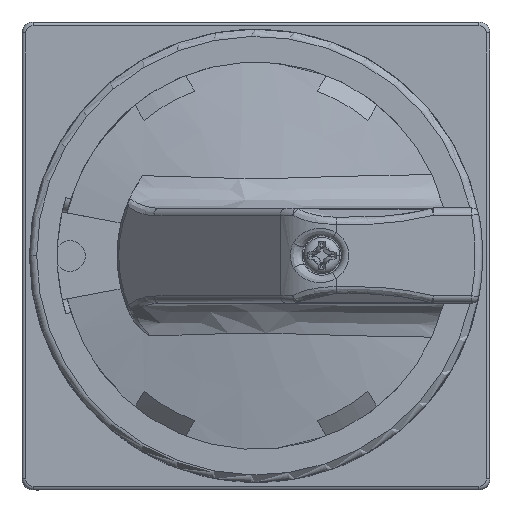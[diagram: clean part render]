
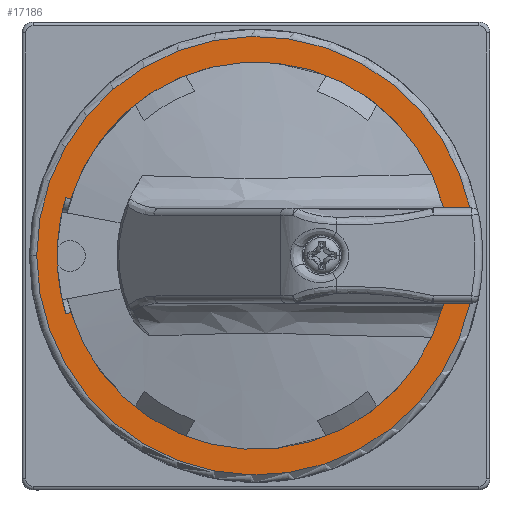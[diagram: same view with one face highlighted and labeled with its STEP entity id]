
A CAD part, top view. The second image highlights one B-rep face of the part: STEP entity #17186.
In plain terms, the highlighted planar face has unit normal (0, 0, 1).
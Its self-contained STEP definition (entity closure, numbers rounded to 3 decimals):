
#1046 = ORIENTED_EDGE ( 'NONE', *, *, #123866, .F. ) ;
#2362 = CARTESIAN_POINT ( 'NONE',  ( -23.639, -5.111, -10.982 ) ) ;
#10178 = ORIENTED_EDGE ( 'NONE', *, *, #300472, .T. ) ;
#16325 = CARTESIAN_POINT ( 'NONE',  ( 32.052, 1.389, -10.982 ) ) ;
#16781 = CARTESIAN_POINT ( 'NONE',  ( -19.114, 2.728, -10.982 ) ) ;
#17186 = ADVANCED_FACE ( 'NONE', ( #33577 ), #148788, .T. ) ;
#17763 = DIRECTION ( 'NONE',  ( 1., 0., 0. ) ) ;
#19682 = DIRECTION ( 'NONE',  ( 0., 0., 1. ) ) ;
#22288 = DIRECTION ( 'NONE',  ( 0., 0., 1. ) ) ;
#24194 = VECTOR ( 'NONE', #241931, 1000. ) ;
#32025 = ORIENTED_EDGE ( 'NONE', *, *, #63473, .T. ) ;
#32920 = AXIS2_PLACEMENT_3D ( 'NONE', #172274, #19682, #197885 ) ;
#33577 = FACE_OUTER_BOUND ( 'NONE', #239831, .T. ) ;
#33874 = ORIENTED_EDGE ( 'NONE', *, *, #200654, .F. ) ;
#36792 = EDGE_CURVE ( 'NONE', #260320, #216813, #77858, .T. ) ;
#37114 = AXIS2_PLACEMENT_3D ( 'NONE', #143602, #169267, #17763 ) ;
#41247 = CARTESIAN_POINT ( 'NONE',  ( 32.052, -11.611, -10.982 ) ) ;
#49899 = DIRECTION ( 'NONE',  ( -0.983, -0.183, 0. ) ) ;
#50058 = DIRECTION ( 'NONE',  ( 0., 0., 1. ) ) ;
#53677 = CARTESIAN_POINT ( 'NONE',  ( 6.361, -5.111, -10.982 ) ) ;
#55884 = DIRECTION ( 'NONE',  ( -1., 0., 0. ) ) ;
#56707 = ORIENTED_EDGE ( 'NONE', *, *, #135231, .T. ) ;
#58321 = VERTEX_POINT ( 'NONE', #16325 ) ;
#58512 = CARTESIAN_POINT ( 'NONE',  ( -19.654, 2.828, -10.982 ) ) ;
#63473 = EDGE_CURVE ( 'NONE', #216813, #58321, #127622, .T. ) ;
#70072 = VECTOR ( 'NONE', #49899, 1000. ) ;
#71296 = CARTESIAN_POINT ( 'NONE',  ( -11.492, 1.389, -10.982 ) ) ;
#73276 = VERTEX_POINT ( 'NONE', #155041 ) ;
#73436 = DIRECTION ( 'NONE',  ( -1., 0., 0. ) ) ;
#75439 = LINE ( 'NONE', #71296, #290949 ) ;
#77858 = LINE ( 'NONE', #16781, #317372 ) ;
#81216 = ORIENTED_EDGE ( 'NONE', *, *, #36792, .T. ) ;
#82586 = EDGE_CURVE ( 'NONE', #236104, #58321, #75439, .T. ) ;
#87873 = DIRECTION ( 'NONE',  ( -1., 0., 0. ) ) ;
#90812 = CARTESIAN_POINT ( 'NONE',  ( -18.962, -12.921, -10.982 ) ) ;
#97197 = VERTEX_POINT ( 'NONE', #90812 ) ;
#98637 = EDGE_CURVE ( 'NONE', #260320, #110194, #151478, .T. ) ;
#110126 = CARTESIAN_POINT ( 'NONE',  ( 6.361, -5.111, -10.982 ) ) ;
#110194 = VERTEX_POINT ( 'NONE', #304994 ) ;
#111951 = CIRCLE ( 'NONE', #115221, 27.2 ) ;
#115221 = AXIS2_PLACEMENT_3D ( 'NONE', #155792, #50058, #176964 ) ;
#122829 = AXIS2_PLACEMENT_3D ( 'NONE', #262987, #162471, #87873 ) ;
#123866 = EDGE_CURVE ( 'NONE', #247388, #73276, #127624, .T. ) ;
#127622 = CIRCLE ( 'NONE', #179882, 26.5 ) ;
#127624 = LINE ( 'NONE', #270824, #24194 ) ;
#135231 = EDGE_CURVE ( 'NONE', #97197, #199916, #137843, .T. ) ;
#137843 = LINE ( 'NONE', #232607, #70072 ) ;
#139394 = ORIENTED_EDGE ( 'NONE', *, *, #98637, .F. ) ;
#141799 = CARTESIAN_POINT ( 'NONE',  ( -19.654, -13.049, -10.982 ) ) ;
#143602 = CARTESIAN_POINT ( 'NONE',  ( 6.361, -5.111, -10.982 ) ) ;
#146959 = DIRECTION ( 'NONE',  ( 0.983, -0.183, 0. ) ) ;
#148788 = PLANE ( 'NONE',  #32920 ) ;
#151478 = CIRCLE ( 'NONE', #122829, 27.2 ) ;
#155041 = CARTESIAN_POINT ( 'NONE',  ( 35.649, -11.611, -10.982 ) ) ;
#155792 = CARTESIAN_POINT ( 'NONE',  ( 6.361, -5.111, -10.982 ) ) ;
#162471 = DIRECTION ( 'NONE',  ( 0., 0., 1. ) ) ;
#169267 = DIRECTION ( 'NONE',  ( 0., 0., -1. ) ) ;
#172274 = CARTESIAN_POINT ( 'NONE',  ( 37.361, -5.111, -10.982 ) ) ;
#176964 = DIRECTION ( 'NONE',  ( -1., 0., 0. ) ) ;
#179629 = AXIS2_PLACEMENT_3D ( 'NONE', #53677, #208482, #55884 ) ;
#179882 = AXIS2_PLACEMENT_3D ( 'NONE', #110126, #288632, #207066 ) ;
#182569 = DIRECTION ( 'NONE',  ( -1., 0., 0. ) ) ;
#183717 = CIRCLE ( 'NONE', #37114, 26.5 ) ;
#184875 = ORIENTED_EDGE ( 'NONE', *, *, #191003, .T. ) ;
#191003 = EDGE_CURVE ( 'NONE', #236104, #320345, #231270, .T. ) ;
#197885 = DIRECTION ( 'NONE',  ( -1., 0., 0. ) ) ;
#199916 = VERTEX_POINT ( 'NONE', #141799 ) ;
#200654 = EDGE_CURVE ( 'NONE', #110194, #199916, #111951, .T. ) ;
#207066 = DIRECTION ( 'NONE',  ( 1., 0., 0. ) ) ;
#208482 = DIRECTION ( 'NONE',  ( 0., 0., 1. ) ) ;
#213275 = EDGE_CURVE ( 'NONE', #320345, #73276, #285707, .T. ) ;
#216813 = VERTEX_POINT ( 'NONE', #320638 ) ;
#227246 = CARTESIAN_POINT ( 'NONE',  ( 6.361, -5.111, -10.982 ) ) ;
#231270 = CIRCLE ( 'NONE', #179629, 30. ) ;
#232607 = CARTESIAN_POINT ( 'NONE',  ( -19.803, -13.077, -10.982 ) ) ;
#236104 = VERTEX_POINT ( 'NONE', #289541 ) ;
#238482 = ORIENTED_EDGE ( 'NONE', *, *, #82586, .F. ) ;
#239831 = EDGE_LOOP ( 'NONE', ( #238482, #184875, #310256, #1046, #10178, #56707, #33874, #139394, #81216, #32025 ) ) ;
#241931 = DIRECTION ( 'NONE',  ( 1., 0., 0. ) ) ;
#247388 = VERTEX_POINT ( 'NONE', #41247 ) ;
#260320 = VERTEX_POINT ( 'NONE', #58512 ) ;
#262987 = CARTESIAN_POINT ( 'NONE',  ( 6.361, -5.111, -10.982 ) ) ;
#270824 = CARTESIAN_POINT ( 'NONE',  ( 36.672, -11.611, -10.982 ) ) ;
#271152 = AXIS2_PLACEMENT_3D ( 'NONE', #227246, #22288, #182569 ) ;
#285707 = CIRCLE ( 'NONE', #271152, 30. ) ;
#288632 = DIRECTION ( 'NONE',  ( 0., 0., -1. ) ) ;
#289541 = CARTESIAN_POINT ( 'NONE',  ( 35.649, 1.389, -10.982 ) ) ;
#290949 = VECTOR ( 'NONE', #73436, 1000. ) ;
#300472 = EDGE_CURVE ( 'NONE', #247388, #97197, #183717, .T. ) ;
#304994 = CARTESIAN_POINT ( 'NONE',  ( -20.839, -5.111, -10.982 ) ) ;
#310256 = ORIENTED_EDGE ( 'NONE', *, *, #213275, .T. ) ;
#317372 = VECTOR ( 'NONE', #146959, 1000. ) ;
#320345 = VERTEX_POINT ( 'NONE', #2362 ) ;
#320638 = CARTESIAN_POINT ( 'NONE',  ( -18.962, 2.699, -10.982 ) ) ;
